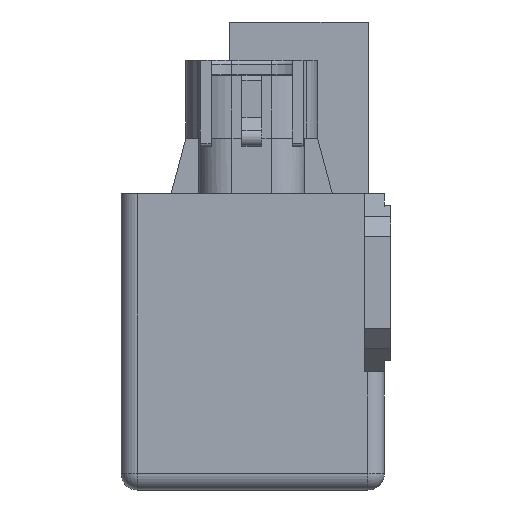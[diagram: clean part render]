
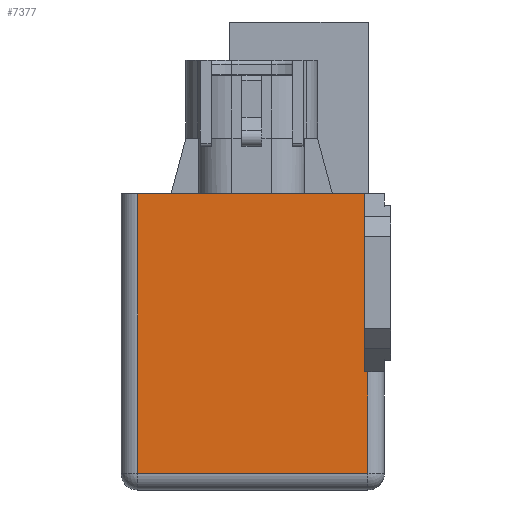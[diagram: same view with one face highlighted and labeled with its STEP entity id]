
A CAD part, left-side view. The second image highlights one B-rep face of the part: STEP entity #7377.
In plain terms, the highlighted planar face has unit normal (-1, 0, 0).
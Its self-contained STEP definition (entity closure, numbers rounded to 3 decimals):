
#555=DIRECTION('',(0.,1.,0.));
#556=VECTOR('',#555,34.4);
#557=CARTESIAN_POINT('',(-31.45,-2.975,-26.));
#558=LINE('',#557,#556);
#828=DIRECTION('',(0.,0.,-1.));
#829=VECTOR('',#828,27.);
#830=CARTESIAN_POINT('',(-31.45,-2.975,-26.));
#831=LINE('',#830,#829);
#835=DIRECTION('',(0.,1.,0.));
#836=VECTOR('',#835,0.5);
#837=CARTESIAN_POINT('',(-31.45,-3.475,-53.));
#838=LINE('',#837,#836);
#842=DIRECTION('',(0.,0.,-1.));
#843=VECTOR('',#842,15.4);
#844=CARTESIAN_POINT('',(-31.45,-3.475,-53.));
#845=LINE('',#844,#843);
#849=DIRECTION('',(0.,-1.,0.));
#850=VECTOR('',#849,34.9);
#851=CARTESIAN_POINT('',(-31.45,31.425,-68.4));
#852=LINE('',#851,#850);
#856=DIRECTION('',(0.,0.,1.));
#857=VECTOR('',#856,42.4);
#858=CARTESIAN_POINT('',(-31.45,31.425,-68.4));
#859=LINE('',#858,#857);
#5683=CARTESIAN_POINT('',(-31.45,31.425,-26.));
#5685=VERTEX_POINT('',#5683);
#5686=CARTESIAN_POINT('',(-31.45,31.425,-68.4));
#5687=VERTEX_POINT('',#5686);
#5688=CARTESIAN_POINT('',(-31.45,-3.475,-68.4));
#5689=VERTEX_POINT('',#5688);
#5790=CARTESIAN_POINT('',(-31.45,-2.975,-26.));
#5791=CARTESIAN_POINT('',(-31.45,-2.975,-53.));
#5792=VERTEX_POINT('',#5790);
#5793=VERTEX_POINT('',#5791);
#5794=CARTESIAN_POINT('',(-31.45,-3.475,-53.));
#5795=VERTEX_POINT('',#5794);
#7363=CARTESIAN_POINT('',(-31.45,-5.975,-70.9));
#7364=DIRECTION('',(-1.,0.,0.));
#7365=DIRECTION('',(0.,0.,1.));
#7366=AXIS2_PLACEMENT_3D('',#7363,#7364,#7365);
#7367=PLANE('',#7366);
#7368=ORIENTED_EDGE('',*,*,#6947,.T.);
#7369=ORIENTED_EDGE('',*,*,#7126,.F.);
#7370=ORIENTED_EDGE('',*,*,#7217,.T.);
#7372=ORIENTED_EDGE('',*,*,#7371,.F.);
#7373=ORIENTED_EDGE('',*,*,#7355,.T.);
#7374=ORIENTED_EDGE('',*,*,#7054,.F.);
#7375=EDGE_LOOP('',(#7368,#7369,#7370,#7372,#7373,#7374));
#7376=FACE_OUTER_BOUND('',#7375,.F.);
#6947=EDGE_CURVE('',#5792,#5793,#831,.T.);
#7054=EDGE_CURVE('',#5792,#5685,#558,.T.);
#7126=EDGE_CURVE('',#5795,#5793,#838,.T.);
#7217=EDGE_CURVE('',#5795,#5689,#845,.T.);
#7355=EDGE_CURVE('',#5687,#5685,#859,.T.);
#7371=EDGE_CURVE('',#5687,#5689,#852,.T.);
#7377=ADVANCED_FACE('',(#7376),#7367,.T.);
